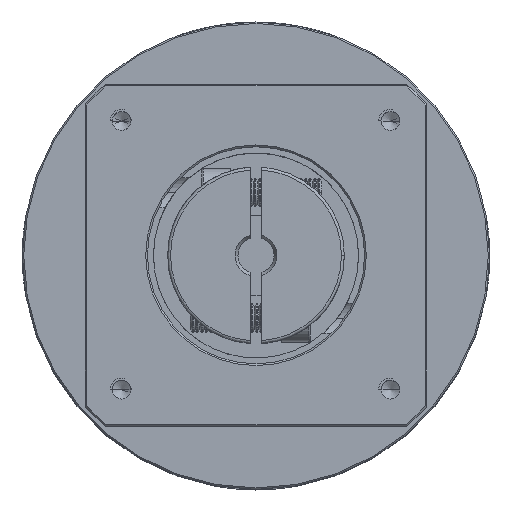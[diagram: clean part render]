
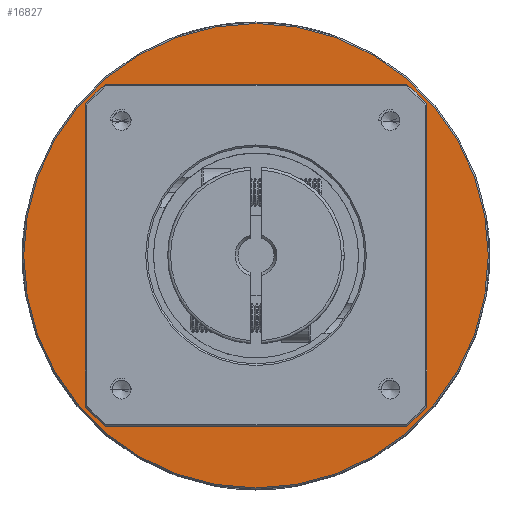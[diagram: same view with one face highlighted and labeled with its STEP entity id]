
A CAD part, top view. The second image highlights one B-rep face of the part: STEP entity #16827.
In plain terms, the highlighted planar face has unit normal (0, 0, 1).
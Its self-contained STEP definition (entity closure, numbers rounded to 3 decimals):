
#808 = EDGE_CURVE ( 'NONE', #43967, #54925, #45604, .T. ) ;
#911 = CARTESIAN_POINT ( 'NONE',  ( 88.917, 7.846, 106.38 ) ) ;
#1918 = CARTESIAN_POINT ( 'NONE',  ( 58.917, 48.596, 106.38 ) ) ;
#5937 = EDGE_LOOP ( 'NONE', ( #114036, #91807 ) ) ;
#7240 = CARTESIAN_POINT ( 'NONE',  ( 58.917, 7.846, 106.38 ) ) ;
#9050 = DIRECTION ( 'NONE',  ( 0., 0., -1. ) ) ;
#10019 = EDGE_CURVE ( 'NONE', #54925, #43967, #99745, .T. ) ;
#15822 = FACE_BOUND ( 'NONE', #5937, .T. ) ;
#16390 = DIRECTION ( 'NONE',  ( 0., 1., 0. ) ) ;
#16827 = ADVANCED_FACE ( 'NONE', ( #113308, #15822 ), #103577, .T. ) ;
#22618 = EDGE_CURVE ( 'NONE', #47309, #90526, #32734, .T. ) ;
#25682 = CARTESIAN_POINT ( 'NONE',  ( 58.917, 7.846, 106.38 ) ) ;
#30616 = DIRECTION ( 'NONE',  ( 0., 0., 1. ) ) ;
#31006 = AXIS2_PLACEMENT_3D ( 'NONE', #85542, #30616, #94765 ) ;
#32734 = CIRCLE ( 'NONE', #94711, 30. ) ;
#34990 = DIRECTION ( 'NONE',  ( -1., 0., 0. ) ) ;
#43967 = VERTEX_POINT ( 'NONE', #44888 ) ;
#44888 = CARTESIAN_POINT ( 'NONE',  ( 58.917, -32.904, 106.38 ) ) ;
#45604 = CIRCLE ( 'NONE', #98276, 40.75 ) ;
#47309 = VERTEX_POINT ( 'NONE', #100165 ) ;
#54925 = VERTEX_POINT ( 'NONE', #1918 ) ;
#63856 = CARTESIAN_POINT ( 'NONE',  ( 58.917, 7.846, 106.38 ) ) ;
#68928 = AXIS2_PLACEMENT_3D ( 'NONE', #7240, #71275, #16390 ) ;
#71275 = DIRECTION ( 'NONE',  ( 0., 0., -1. ) ) ;
#73096 = DIRECTION ( 'NONE',  ( -1., 0., 0. ) ) ;
#74393 = ORIENTED_EDGE ( 'NONE', *, *, #808, .F. ) ;
#77127 = CARTESIAN_POINT ( 'NONE',  ( 58.917, 7.846, 106.38 ) ) ;
#77212 = DIRECTION ( 'NONE',  ( 0., 0., -1. ) ) ;
#77352 = DIRECTION ( 'NONE',  ( 0., 1., 0. ) ) ;
#78189 = EDGE_LOOP ( 'NONE', ( #110493, #74393 ) ) ;
#84543 = AXIS2_PLACEMENT_3D ( 'NONE', #63856, #9050, #73096 ) ;
#85542 = CARTESIAN_POINT ( 'NONE',  ( 58.917, 7.846, 106.38 ) ) ;
#89868 = DIRECTION ( 'NONE',  ( 0., 0., -1. ) ) ;
#90526 = VERTEX_POINT ( 'NONE', #911 ) ;
#91807 = ORIENTED_EDGE ( 'NONE', *, *, #108402, .T. ) ;
#94711 = AXIS2_PLACEMENT_3D ( 'NONE', #25682, #89868, #34990 ) ;
#94765 = DIRECTION ( 'NONE',  ( 1., 0., 0. ) ) ;
#98276 = AXIS2_PLACEMENT_3D ( 'NONE', #77127, #77212, #77352 ) ;
#99745 = CIRCLE ( 'NONE', #68928, 40.75 ) ;
#100158 = CIRCLE ( 'NONE', #84543, 30. ) ;
#100165 = CARTESIAN_POINT ( 'NONE',  ( 28.917, 7.846, 106.38 ) ) ;
#103577 = PLANE ( 'NONE',  #31006 ) ;
#108402 = EDGE_CURVE ( 'NONE', #90526, #47309, #100158, .T. ) ;
#110493 = ORIENTED_EDGE ( 'NONE', *, *, #10019, .F. ) ;
#113308 = FACE_OUTER_BOUND ( 'NONE', #78189, .T. ) ;
#114036 = ORIENTED_EDGE ( 'NONE', *, *, #22618, .T. ) ;
